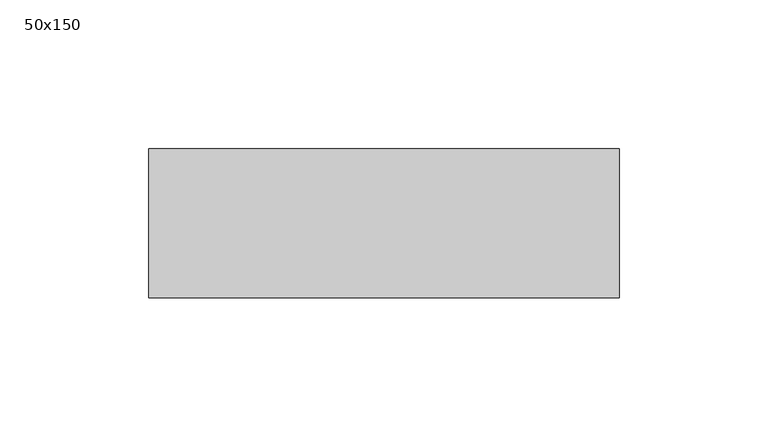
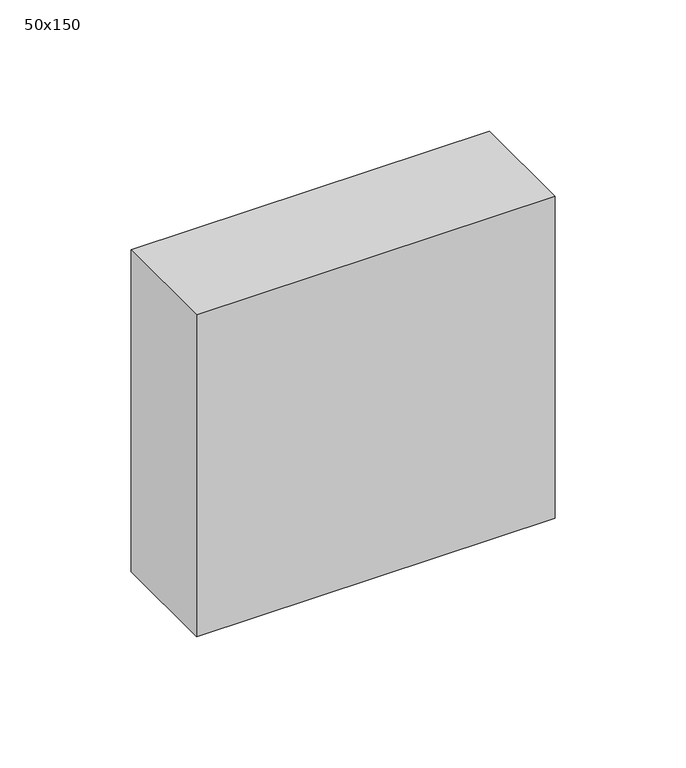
"""IFC4 building model written with IfcOpenShell, lengths in millimetres: beam geometry, Graded Timber : 50x150."""

from ifc_helpers import new_model, si_unit, frame, origin, place, context, project, spatial, polyline, outline, extrude, source, transform, mapped, element, save


def beam_50x150_21f94889(model_context):
    return source(origin(), model_context, "Body", "SweptSolid", [
        extrude(outline(polyline([(79.0, 25.0), (79.0, -25.0), (-79.0, -25.0), (-79.0, 25.0), (79.0, 25.0)])), frame((0.0, 0.0, -75.0), z_axis=(0.0, 0.0, 1.0), x_axis=(1.0, 0.0, 0.0)), (0.0, 0.0, 1.0), 150.0),
    ])


if __name__ == "__main__":
    model = new_model("IFC4")
    model_context = context("Model", 3, world=origin())
    ifc_project = project(units=[si_unit("LENGTHUNIT", "METRE", prefix="MILLI")], contexts=[model_context])
    site = spatial("IfcSite", under=ifc_project)
    building = spatial("IfcBuilding", under=site)
    placement = place(None, origin())
    beam_50x150_shape = beam_50x150_21f94889(model_context)
    element("IfcBeam", 1, ObjectType="Graded Timber : 50x150", at=placement, inside=building, context=model_context, shape_type="MappedRepresentation", body=[
        mapped(beam_50x150_shape, transform((0.0, 0.0, 0.0), x_axis=(1.0, 0.0, 0.0), y_axis=(0.0, 1.0, 0.0), z_axis=(0.0, 0.0, 1.0))),
    ])
    save(model, "model.ifc")
